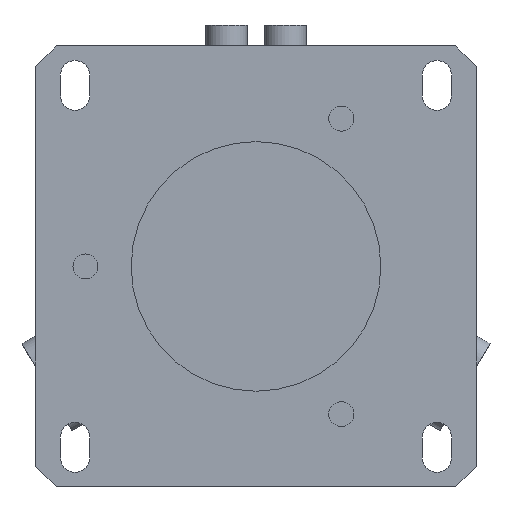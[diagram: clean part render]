
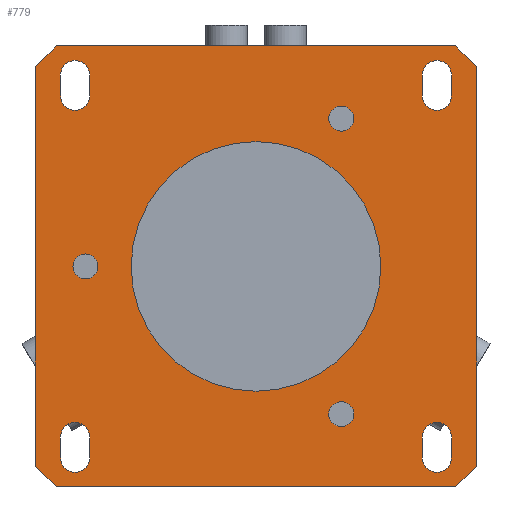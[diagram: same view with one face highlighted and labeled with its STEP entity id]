
A CAD part, front view. The second image highlights one B-rep face of the part: STEP entity #779.
In plain terms, the highlighted planar face has unit normal (0, -1, 0).
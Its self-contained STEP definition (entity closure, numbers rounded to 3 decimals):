
#359=FACE_BOUND('',#1139,.T.);
#360=FACE_BOUND('',#1140,.T.);
#361=FACE_BOUND('',#1141,.T.);
#362=FACE_BOUND('',#1142,.T.);
#363=FACE_BOUND('',#1143,.T.);
#364=FACE_BOUND('',#1144,.T.);
#365=FACE_BOUND('',#1145,.T.);
#366=FACE_BOUND('',#1146,.T.);
#367=FACE_BOUND('',#1147,.T.);
#492=LINE('',#3755,#640);
#493=LINE('',#3760,#641);
#494=LINE('',#3763,#642);
#495=LINE('',#3768,#643);
#496=LINE('',#3777,#644);
#497=LINE('',#3782,#645);
#498=LINE('',#3785,#646);
#499=LINE('',#3790,#647);
#500=LINE('',#3793,#648);
#501=LINE('',#3796,#649);
#502=LINE('',#3798,#650);
#503=LINE('',#3800,#651);
#504=LINE('',#3802,#652);
#505=LINE('',#3804,#653);
#506=LINE('',#3806,#654);
#507=LINE('',#3808,#655);
#640=VECTOR('',#3119,1.);
#641=VECTOR('',#3122,1.);
#642=VECTOR('',#3125,1.);
#643=VECTOR('',#3128,1.);
#644=VECTOR('',#3137,1.);
#645=VECTOR('',#3140,1.);
#646=VECTOR('',#3143,1.);
#647=VECTOR('',#3146,1.);
#648=VECTOR('',#3149,1.);
#649=VECTOR('',#3150,1.);
#650=VECTOR('',#3151,1.);
#651=VECTOR('',#3152,1.);
#652=VECTOR('',#3153,1.);
#653=VECTOR('',#3154,1.);
#654=VECTOR('',#3155,1.);
#655=VECTOR('',#3156,1.);
#779=ADVANCED_FACE('',(#359,#360,#361,#362,#363,#364,#365,#366,#367),#867,
 .F.);
#867=PLANE('',#2550);
#1139=EDGE_LOOP('',(#1592,#1593,#1594,#1595));
#1140=EDGE_LOOP('',(#1596,#1597,#1598,#1599));
#1141=EDGE_LOOP('',(#1600));
#1142=EDGE_LOOP('',(#1601));
#1143=EDGE_LOOP('',(#1602));
#1144=EDGE_LOOP('',(#1603,#1604,#1605,#1606));
#1145=EDGE_LOOP('',(#1607,#1608,#1609,#1610));
#1146=EDGE_LOOP('',(#1611,#1612,#1613,#1614,#1615,#1616,#1617,#1618));
#1147=EDGE_LOOP('',(#1619));
#1592=ORIENTED_EDGE('',*,*,#2155,.F.);
#1593=ORIENTED_EDGE('',*,*,#2156,.F.);
#1594=ORIENTED_EDGE('',*,*,#2157,.F.);
#1595=ORIENTED_EDGE('',*,*,#2158,.F.);
#1596=ORIENTED_EDGE('',*,*,#2159,.F.);
#1597=ORIENTED_EDGE('',*,*,#2160,.F.);
#1598=ORIENTED_EDGE('',*,*,#2161,.F.);
#1599=ORIENTED_EDGE('',*,*,#2162,.F.);
#1600=ORIENTED_EDGE('',*,*,#2163,.F.);
#1601=ORIENTED_EDGE('',*,*,#2164,.F.);
#1602=ORIENTED_EDGE('',*,*,#2165,.F.);
#1603=ORIENTED_EDGE('',*,*,#2166,.T.);
#1604=ORIENTED_EDGE('',*,*,#2167,.T.);
#1605=ORIENTED_EDGE('',*,*,#2168,.T.);
#1606=ORIENTED_EDGE('',*,*,#2169,.T.);
#1607=ORIENTED_EDGE('',*,*,#2170,.T.);
#1608=ORIENTED_EDGE('',*,*,#2171,.T.);
#1609=ORIENTED_EDGE('',*,*,#2172,.T.);
#1610=ORIENTED_EDGE('',*,*,#2173,.T.);
#1611=ORIENTED_EDGE('',*,*,#2174,.F.);
#1612=ORIENTED_EDGE('',*,*,#2175,.F.);
#1613=ORIENTED_EDGE('',*,*,#2176,.F.);
#1614=ORIENTED_EDGE('',*,*,#2177,.F.);
#1615=ORIENTED_EDGE('',*,*,#2178,.F.);
#1616=ORIENTED_EDGE('',*,*,#2179,.F.);
#1617=ORIENTED_EDGE('',*,*,#2180,.F.);
#1618=ORIENTED_EDGE('',*,*,#2181,.F.);
#1619=ORIENTED_EDGE('',*,*,#2127,.F.);
#1879=VERTEX_POINT('',#3698);
#1907=VERTEX_POINT('',#3756);
#1908=VERTEX_POINT('',#3757);
#1909=VERTEX_POINT('',#3759);
#1910=VERTEX_POINT('',#3761);
#1911=VERTEX_POINT('',#3764);
#1912=VERTEX_POINT('',#3765);
#1913=VERTEX_POINT('',#3767);
#1914=VERTEX_POINT('',#3769);
#1915=VERTEX_POINT('',#3772);
#1916=VERTEX_POINT('',#3774);
#1917=VERTEX_POINT('',#3776);
#1918=VERTEX_POINT('',#3778);
#1919=VERTEX_POINT('',#3779);
#1920=VERTEX_POINT('',#3781);
#1921=VERTEX_POINT('',#3783);
#1922=VERTEX_POINT('',#3786);
#1923=VERTEX_POINT('',#3787);
#1924=VERTEX_POINT('',#3789);
#1925=VERTEX_POINT('',#3791);
#1926=VERTEX_POINT('',#3794);
#1927=VERTEX_POINT('',#3795);
#1928=VERTEX_POINT('',#3797);
#1929=VERTEX_POINT('',#3799);
#1930=VERTEX_POINT('',#3801);
#1931=VERTEX_POINT('',#3803);
#1932=VERTEX_POINT('',#3805);
#1933=VERTEX_POINT('',#3807);
#2127=EDGE_CURVE('',#1879,#1879,#2303,.T.);
#2155=EDGE_CURVE('',#1907,#1908,#492,.T.);
#2156=EDGE_CURVE('',#1909,#1907,#2315,.T.);
#2157=EDGE_CURVE('',#1910,#1909,#493,.T.);
#2158=EDGE_CURVE('',#1908,#1910,#2316,.T.);
#2159=EDGE_CURVE('',#1911,#1912,#494,.T.);
#2160=EDGE_CURVE('',#1913,#1911,#2317,.T.);
#2161=EDGE_CURVE('',#1914,#1913,#495,.T.);
#2162=EDGE_CURVE('',#1912,#1914,#2318,.T.);
#2163=EDGE_CURVE('',#1915,#1915,#2319,.T.);
#2164=EDGE_CURVE('',#1916,#1916,#2320,.T.);
#2165=EDGE_CURVE('',#1917,#1917,#2321,.T.);
#2166=EDGE_CURVE('',#1918,#1919,#496,.T.);
#2167=EDGE_CURVE('',#1919,#1920,#2322,.T.);
#2168=EDGE_CURVE('',#1920,#1921,#497,.T.);
#2169=EDGE_CURVE('',#1921,#1918,#2323,.T.);
#2170=EDGE_CURVE('',#1922,#1923,#498,.T.);
#2171=EDGE_CURVE('',#1923,#1924,#2324,.T.);
#2172=EDGE_CURVE('',#1924,#1925,#499,.T.);
#2173=EDGE_CURVE('',#1925,#1922,#2325,.T.);
#2174=EDGE_CURVE('',#1926,#1927,#500,.T.);
#2175=EDGE_CURVE('',#1928,#1926,#501,.T.);
#2176=EDGE_CURVE('',#1929,#1928,#502,.T.);
#2177=EDGE_CURVE('',#1930,#1929,#503,.T.);
#2178=EDGE_CURVE('',#1931,#1930,#504,.T.);
#2179=EDGE_CURVE('',#1932,#1931,#505,.T.);
#2180=EDGE_CURVE('',#1933,#1932,#506,.T.);
#2181=EDGE_CURVE('',#1927,#1933,#507,.T.);
#2303=CIRCLE('',#2525,30.);
#2315=CIRCLE('',#2539,3.5);
#2316=CIRCLE('',#2540,3.5);
#2317=CIRCLE('',#2541,3.5);
#2318=CIRCLE('',#2542,3.5);
#2319=CIRCLE('',#2543,3.);
#2320=CIRCLE('',#2544,3.);
#2321=CIRCLE('',#2545,3.);
#2322=CIRCLE('',#2546,3.5);
#2323=CIRCLE('',#2547,3.5);
#2324=CIRCLE('',#2548,3.5);
#2325=CIRCLE('',#2549,3.5);
#2525=AXIS2_PLACEMENT_3D('',#3697,#3075,#3076);
#2539=AXIS2_PLACEMENT_3D('',#3758,#3120,#3121);
#2540=AXIS2_PLACEMENT_3D('',#3762,#3123,#3124);
#2541=AXIS2_PLACEMENT_3D('',#3766,#3126,#3127);
#2542=AXIS2_PLACEMENT_3D('',#3770,#3129,#3130);
#2543=AXIS2_PLACEMENT_3D('',#3771,#3131,#3132);
#2544=AXIS2_PLACEMENT_3D('',#3773,#3133,#3134);
#2545=AXIS2_PLACEMENT_3D('',#3775,#3135,#3136);
#2546=AXIS2_PLACEMENT_3D('',#3780,#3138,#3139);
#2547=AXIS2_PLACEMENT_3D('',#3784,#3141,#3142);
#2548=AXIS2_PLACEMENT_3D('',#3788,#3144,#3145);
#2549=AXIS2_PLACEMENT_3D('',#3792,#3147,#3148);
#2550=AXIS2_PLACEMENT_3D('',#3809,#3157,#3158);
#3075=DIRECTION('',(0.,-1.,0.));
#3076=DIRECTION('',(1.,0.,0.));
#3119=DIRECTION('',(0.,0.,-1.));
#3120=DIRECTION('',(0.,-1.,0.));
#3121=DIRECTION('',(1.,0.,0.));
#3122=DIRECTION('',(0.,0.,1.));
#3123=DIRECTION('',(0.,-1.,0.));
#3124=DIRECTION('',(1.,0.,0.));
#3125=DIRECTION('',(0.,0.,-1.));
#3126=DIRECTION('',(0.,-1.,0.));
#3127=DIRECTION('',(1.,0.,0.));
#3128=DIRECTION('',(0.,0.,1.));
#3129=DIRECTION('',(0.,-1.,0.));
#3130=DIRECTION('',(1.,0.,0.));
#3131=DIRECTION('',(0.,-1.,0.));
#3132=DIRECTION('',(1.,0.,0.));
#3133=DIRECTION('',(0.,-1.,0.));
#3134=DIRECTION('',(1.,0.,0.));
#3135=DIRECTION('',(0.,-1.,0.));
#3136=DIRECTION('',(1.,0.,0.));
#3137=DIRECTION('',(0.,0.,1.));
#3138=DIRECTION('',(0.,1.,0.));
#3139=DIRECTION('',(1.,0.,0.));
#3140=DIRECTION('',(0.,0.,-1.));
#3141=DIRECTION('',(0.,1.,0.));
#3142=DIRECTION('',(1.,0.,0.));
#3143=DIRECTION('',(0.,0.,1.));
#3144=DIRECTION('',(0.,1.,0.));
#3145=DIRECTION('',(1.,0.,0.));
#3146=DIRECTION('',(0.,0.,-1.));
#3147=DIRECTION('',(0.,1.,0.));
#3148=DIRECTION('',(1.,0.,0.));
#3149=DIRECTION('',(1.,0.,0.));
#3150=DIRECTION('',(0.707,0.,0.707));
#3151=DIRECTION('',(0.,0.,1.));
#3152=DIRECTION('',(-0.707,0.,0.707));
#3153=DIRECTION('',(-1.,0.,0.));
#3154=DIRECTION('',(-0.707,0.,-0.707));
#3155=DIRECTION('',(0.,0.,-1.));
#3156=DIRECTION('',(0.707,0.,-0.707));
#3157=DIRECTION('',(0.,1.,0.));
#3158=DIRECTION('',(0.,0.,1.));
#3697=CARTESIAN_POINT('',(3435.448,-7917.444,0.));
#3698=CARTESIAN_POINT('',(3465.448,-7917.444,0.));
#3755=CARTESIAN_POINT('',(3475.448,-7917.444,46.));
#3756=CARTESIAN_POINT('',(3475.448,-7917.444,46.));
#3757=CARTESIAN_POINT('',(3475.448,-7917.444,41.));
#3758=CARTESIAN_POINT('',(3478.948,-7917.444,46.));
#3759=CARTESIAN_POINT('',(3482.448,-7917.444,46.));
#3760=CARTESIAN_POINT('',(3482.448,-7917.444,41.));
#3761=CARTESIAN_POINT('',(3482.448,-7917.444,41.));
#3762=CARTESIAN_POINT('',(3478.948,-7917.444,41.));
#3763=CARTESIAN_POINT('',(3388.448,-7917.444,46.));
#3764=CARTESIAN_POINT('',(3388.448,-7917.444,46.));
#3765=CARTESIAN_POINT('',(3388.448,-7917.444,41.));
#3766=CARTESIAN_POINT('',(3391.948,-7917.444,46.));
#3767=CARTESIAN_POINT('',(3395.448,-7917.444,46.));
#3768=CARTESIAN_POINT('',(3395.448,-7917.444,41.));
#3769=CARTESIAN_POINT('',(3395.448,-7917.444,41.));
#3770=CARTESIAN_POINT('',(3391.948,-7917.444,41.));
#3771=CARTESIAN_POINT('',(3455.948,-7917.444,-35.507));
#3772=CARTESIAN_POINT('',(3458.948,-7917.444,-35.507));
#3773=CARTESIAN_POINT('',(3394.448,-7917.444,0.));
#3774=CARTESIAN_POINT('',(3397.448,-7917.444,0.));
#3775=CARTESIAN_POINT('',(3455.948,-7917.444,35.507));
#3776=CARTESIAN_POINT('',(3458.948,-7917.444,35.507));
#3777=CARTESIAN_POINT('',(3388.448,-7917.444,-46.));
#3778=CARTESIAN_POINT('',(3388.448,-7917.444,-46.));
#3779=CARTESIAN_POINT('',(3388.448,-7917.444,-41.));
#3780=CARTESIAN_POINT('',(3391.948,-7917.444,-41.));
#3781=CARTESIAN_POINT('',(3395.448,-7917.444,-41.));
#3782=CARTESIAN_POINT('',(3395.448,-7917.444,-41.));
#3783=CARTESIAN_POINT('',(3395.448,-7917.444,-46.));
#3784=CARTESIAN_POINT('',(3391.948,-7917.444,-46.));
#3785=CARTESIAN_POINT('',(3475.448,-7917.444,-46.));
#3786=CARTESIAN_POINT('',(3475.448,-7917.444,-46.));
#3787=CARTESIAN_POINT('',(3475.448,-7917.444,-41.));
#3788=CARTESIAN_POINT('',(3478.948,-7917.444,-41.));
#3789=CARTESIAN_POINT('',(3482.448,-7917.444,-41.));
#3790=CARTESIAN_POINT('',(3482.448,-7917.444,-41.));
#3791=CARTESIAN_POINT('',(3482.448,-7917.444,-46.));
#3792=CARTESIAN_POINT('',(3478.948,-7917.444,-46.));
#3793=CARTESIAN_POINT('',(3387.448,-7917.444,53.));
#3794=CARTESIAN_POINT('',(3387.448,-7917.444,53.));
#3795=CARTESIAN_POINT('',(3483.448,-7917.444,53.));
#3796=CARTESIAN_POINT('',(3382.448,-7917.444,48.));
#3797=CARTESIAN_POINT('',(3382.448,-7917.444,48.));
#3798=CARTESIAN_POINT('',(3382.448,-7917.444,-48.));
#3799=CARTESIAN_POINT('',(3382.448,-7917.444,-48.));
#3800=CARTESIAN_POINT('',(3387.448,-7917.444,-53.));
#3801=CARTESIAN_POINT('',(3387.448,-7917.444,-53.));
#3802=CARTESIAN_POINT('',(3483.448,-7917.444,-53.));
#3803=CARTESIAN_POINT('',(3483.448,-7917.444,-53.));
#3804=CARTESIAN_POINT('',(3488.448,-7917.444,-48.));
#3805=CARTESIAN_POINT('',(3488.448,-7917.444,-48.));
#3806=CARTESIAN_POINT('',(3488.448,-7917.444,48.));
#3807=CARTESIAN_POINT('',(3488.448,-7917.444,48.));
#3808=CARTESIAN_POINT('',(3483.448,-7917.444,53.));
#3809=CARTESIAN_POINT('',(3478.948,-7917.444,-46.));
